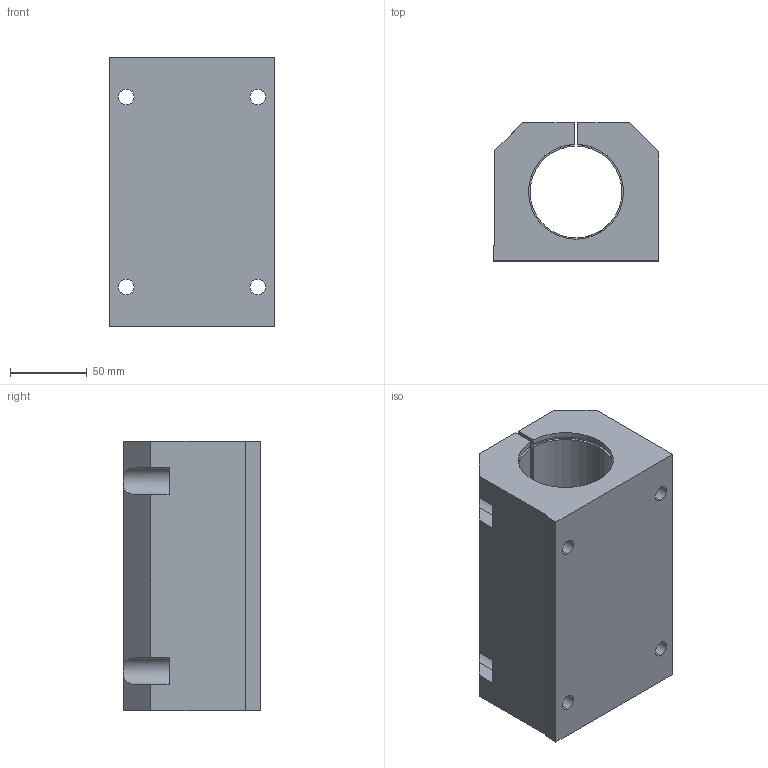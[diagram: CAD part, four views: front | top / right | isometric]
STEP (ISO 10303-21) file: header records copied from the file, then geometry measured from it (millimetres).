
FILE_DESCRIPTION (( 'STEP AP214' ), '1' );
FILE_NAME ('KTGE32-40.step', '2020-03-04T13:27:40', ( '' ), ( '' ), 'SwSTEP 2.0', 'SolidWorks 2019', '' );
FILE_SCHEMA (( 'AUTOMOTIVE_DESIGN' ));
Length unit declared in the file: millimetre
Products named in the file (1): KTGE32-40
Bounding box: 108 x 90 x 176 mm (x, y, z)
Volume: 1040250.5 mm3; surface area: 133217 mm2
Topology: 1 solids, 1 shells, 92 faces, 256 edges, 166 vertices
Faces by surface type: cylinder 49, plane 37, cone 6
Entity records: 3210 total; most frequent: CARTESIAN_POINT 605, DIRECTION 516, ORIENTED_EDGE 504, EDGE_CURVE 252, AXIS2_PLACEMENT_3D 185, VERTEX_POINT 166, LINE 146, VECTOR 146
